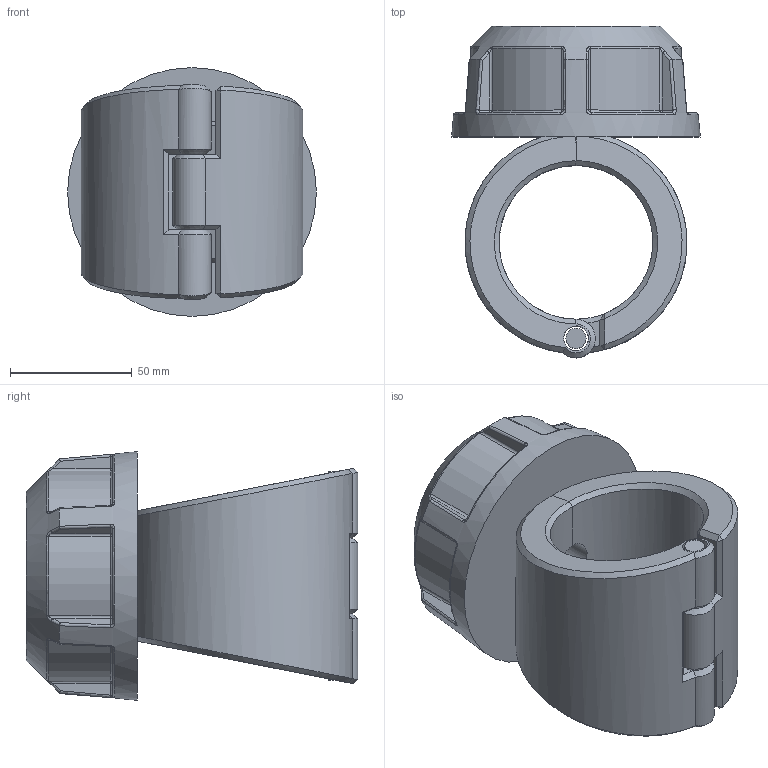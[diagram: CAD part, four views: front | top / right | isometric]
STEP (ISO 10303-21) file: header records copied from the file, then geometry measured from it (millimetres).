
FILE_DESCRIPTION(/* description */ ('Plassadle Threaded 63x1'''''),/* implementation_level */ '2;1');
FILE_NAME(/* name */ 'C:\Users\comp2\Dropbox\99-16-3568-Processing\Mechanical Fittings\16300\stp\163000063010.stp',/* time_stamp */ '2022-02-03T11:46:41+00:00',/* author */ ('comp2'),/* organization */ (''),/* preprocessor_version */ 'ST-DEVELOPER v17.2',/* originating_system */ 'Autodesk Inventor 2019',/* authorisation */ '');
FILE_SCHEMA (('AUTOMOTIVE_DESIGN { 1 0 10303 214 3 1 1 }'));
Length unit declared in the file: millimetre
Products named in the file (1): 163000063010
Bounding box: 102 x 136 x 102 mm (x, y, z)
Volume: 488227.7 mm3; surface area: 79243.1 mm2
Topology: 4 solids, 4 shells, 203 faces, 486 edges, 293 vertices
Faces by surface type: bspline 58, plane 53, cylinder 47, torus 18, cone 15, sphere 12
Full cylindrical faces by diameter (mm): 8.22 x1, 10.22 x3, 15.146 x1, 25.747 x1, 30.291 x1, 45.437 x1
Entity records: 8215 total; most frequent: CARTESIAN_POINT 3868, ORIENTED_EDGE 972, DIRECTION 781, EDGE_CURVE 486, AXIS2_PLACEMENT_3D 330, VERTEX_POINT 293, EDGE_LOOP 213, FACE_OUTER_BOUND 203
